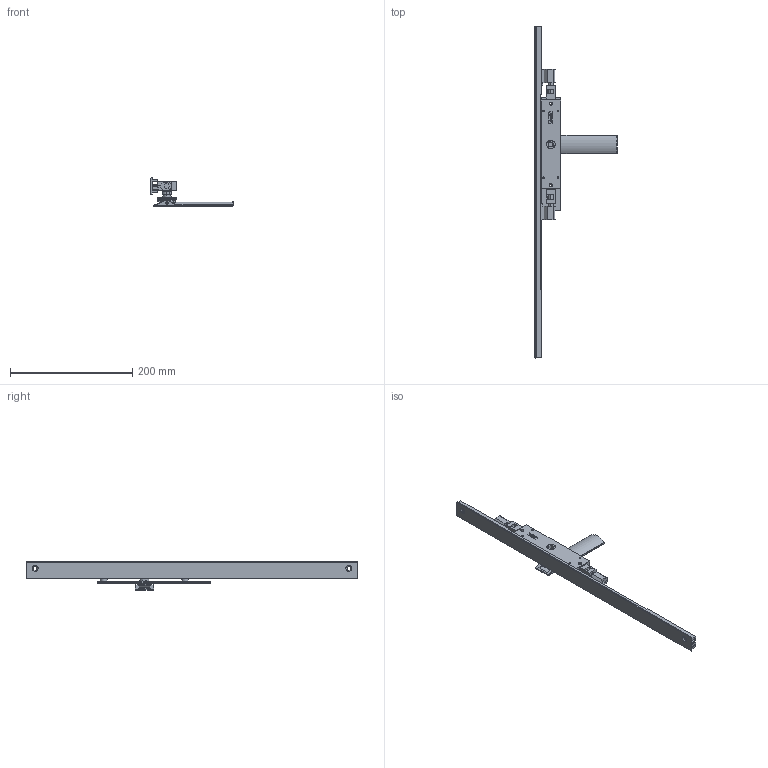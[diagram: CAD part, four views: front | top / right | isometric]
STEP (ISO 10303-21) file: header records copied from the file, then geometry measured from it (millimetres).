
FILE_DESCRIPTION (( 'STEP AP214' ), '1' );
FILE_NAME ('TPL-W-501-U 19July2024.STEP', '2024-12-04T23:52:45', ( '' ), ( '' ), 'SwSTEP 2.0', 'SolidWorks 2023', '' );
FILE_SCHEMA (( 'AUTOMOTIVE_DESIGN' ));
Length unit declared in the file: millimetre
Products named in the file (16): Bottom twinpoint transmission rod wood system^TPL-W-001 19July2024_Standard Range 2891.7mm; Copy of LKC-531-A Rod TPLGen2 machined bolt end^TPL-W-001 19July2024_LKC-531-A-M003; Copy of Adapter CnE - simplfied^TPL-W-001 19July2024_26mm backset; Copy of COV-112-C Cover C TPLGen2 Lock body^TPL-W-001 19July2024; COV-112-B Cover B suit TPLGen2 standard range^TPL-W-001 19July2024_2870mm; Copy of TPLGen2 push rod - simplified^Copy of TPLGen2 lock body non-keyed assembly_TPL-W-001 19July2024_Female thread M10; Copy of TPLGen2 lock body non-keyed^Copy of TPLGen2 lock body non-keyed assembly_TPL-W-001 19July2024; Copy of LKC-547 Spindle - simplified^Copy of TPGen2 handle non-keyed - simplified_TPL-W-001 19July2024_C - 15mm; Bolt.step; Copy of Escutcheon plate unkeyed 185mm - simplified^Copy of TPGen2 handle non-keyed - simplified_TPL-W-001 19July2024; Copy of TPLGen2 lock body non-keyed assembly^TPL-W-001 19July2024_Bolts retracted; COV-112-A Cover A suit TPLGen2 standard range^TPL-W-001 19July2024_2870mm; Copy of Handle sub-assembly - simplified^Copy of TPGen2 handle non-keyed - simplified_TPL-W-001 19July2024; Copy of TPGen2 handle non-keyed - simplified^TPL-W-001 19July2024_Left; Copy of Adapter DnF - simplfied^TPL-W-001 19July2024_26mm backset; TPL-W-501-U 19July2024
Assembly tree (13 placements, depth 3):
  COV-112-B Cover B suit TPLGen2 standard range^TPL-W-001 19July2024_2870mm
  Bolt.step
  COV-112-A Cover A suit TPLGen2 standard range^TPL-W-001 19July2024_2870mm
  TPL-W-501-U 19July2024
    Copy of TPLGen2 lock body non-keyed assembly^TPL-W-001 19July2024_Bolts retracted
      Copy of TPLGen2 lock body non-keyed^Copy of TPLGen2 lock body non-keyed assembly_TPL-W-001 19July2024
      Copy of TPLGen2 push rod - simplified^Copy of TPLGen2 lock body non-keyed assembly_TPL-W-001 19July2024_Female thread M10  x2
    Copy of TPGen2 handle non-keyed - simplified^TPL-W-001 19July2024_Left
      Copy of Escutcheon plate unkeyed 185mm - simplified^Copy of TPGen2 handle non-keyed - simplified_TPL-W-001 19July2024
      Copy of Handle sub-assembly - simplified^Copy of TPGen2 handle non-keyed - simplified_TPL-W-001 19July2024
      Copy of LKC-547 Spindle - simplified^Copy of TPGen2 handle non-keyed - simplified_TPL-W-001 19July2024_C - 15mm
    Copy of COV-112-C Cover C TPLGen2 Lock body^TPL-W-001 19July2024
    Bottom twinpoint transmission rod wood system^TPL-W-001 19July2024_Standard Range 2891.7mm
    Copy of LKC-531-A Rod TPLGen2 machined bolt end^TPL-W-001 19July2024_LKC-531-A-M003
    Copy of Adapter DnF - simplfied^TPL-W-001 19July2024_26mm backset
    Copy of Adapter CnE - simplfied^TPL-W-001 19July2024_26mm backset
Bounding box: 134.5 x 544 x 45.97 mm (x, y, z)
Volume: 209790.7 mm3; surface area: 119522.7 mm2
Topology: 12 solids, 12 shells, 643 faces, 1638 edges, 1036 vertices
Faces by surface type: plane 303, cylinder 199, bspline 77, torus 32, cone 20, sphere 12
Entity records: 19387 total; most frequent: CARTESIAN_POINT 4495, ORIENTED_EDGE 3060, DIRECTION 2907, EDGE_CURVE 1530, AXIS2_PLACEMENT_3D 1000, VERTEX_POINT 976, LINE 907, VECTOR 907
